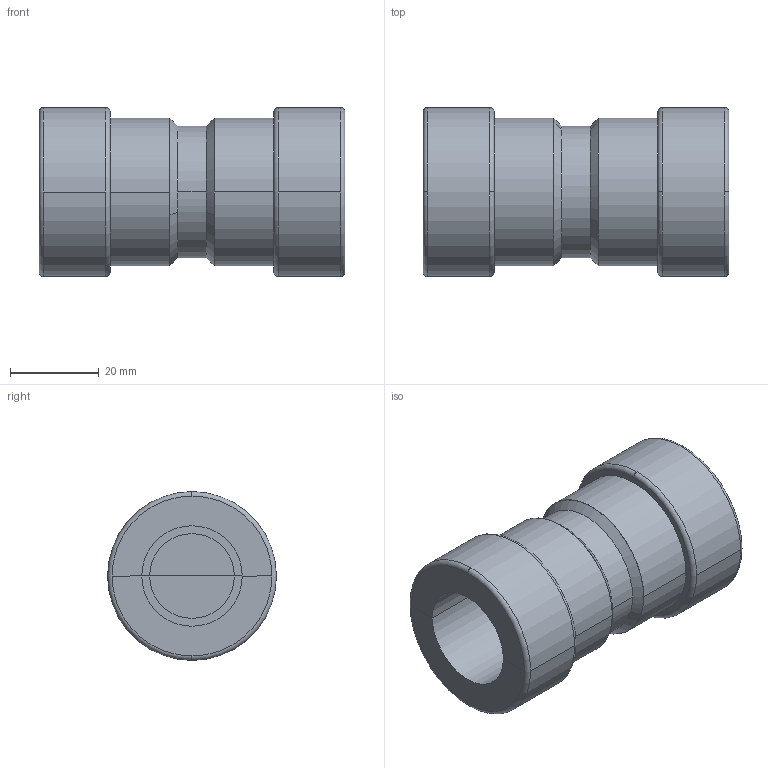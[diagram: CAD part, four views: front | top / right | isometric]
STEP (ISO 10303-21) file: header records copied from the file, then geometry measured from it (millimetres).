
FILE_DESCRIPTION (( 'STEP AP203' ), '1' );
FILE_NAME ('Viega_MegaPress FKM_Coupling, Transition 5915ZL - 3_4in.STEP', '2025-02-21T22:23:47', ( '' ), ( '' ), 'SwSTEP 2.0', 'SolidWorks 2020', '' );
FILE_SCHEMA (( 'CONFIG_CONTROL_DESIGN' ));
Length unit declared in the file: millimetre
Products named in the file (1): Viega_MegaPress FKM_Coupling, Transition 5915ZL - 3_4in
Bounding box: 68.8 x 37.95 x 37.95 mm (x, y, z)
Volume: 45642.2 mm3; surface area: 18039.7 mm2
Topology: 5 solids, 5 shells, 50 faces, 116 edges, 72 vertices
Faces by surface type: plane 20, cylinder 18, torus 8, cone 4
Entity records: 1529 total; most frequent: DIRECTION 298, CARTESIAN_POINT 239, ORIENTED_EDGE 232, AXIS2_PLACEMENT_3D 131, EDGE_CURVE 116, CIRCLE 80, VERTEX_POINT 72, FACE_OUTER_BOUND 50
